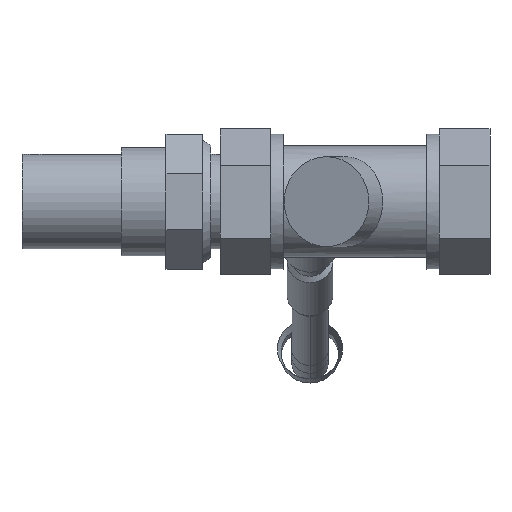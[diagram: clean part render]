
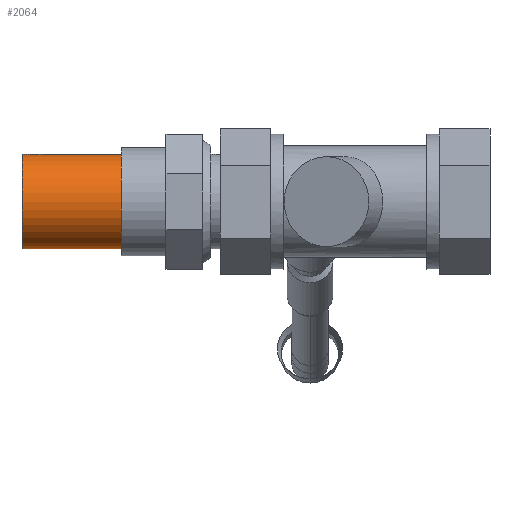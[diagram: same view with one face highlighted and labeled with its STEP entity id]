
A CAD part, front view. The second image highlights one B-rep face of the part: STEP entity #2064.
In plain terms, the highlighted cylindrical face has radius 13.335 mm (diameter 26.67 mm), a full revolution.
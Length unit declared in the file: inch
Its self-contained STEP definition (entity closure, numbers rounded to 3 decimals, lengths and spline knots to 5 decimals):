
#176=CYLINDRICAL_SURFACE('',#2305,0.525);
#275=FACE_OUTER_BOUND('',#396,.T.);
#396=EDGE_LOOP('',(#1761,#1762,#1763,#1764,#1765,#1766));
#514=CIRCLE('',#2297,0.525);
#515=CIRCLE('',#2298,0.525);
#520=CIRCLE('',#2306,0.525);
#521=CIRCLE('',#2307,0.525);
#647=LINE('',#3668,#790);
#790=VECTOR('',#2875,0.525);
#968=VERTEX_POINT('',#3649);
#969=VERTEX_POINT('',#3650);
#974=VERTEX_POINT('',#3665);
#975=VERTEX_POINT('',#3666);
#1236=EDGE_CURVE('',#968,#969,#514,.T.);
#1237=EDGE_CURVE('',#969,#968,#515,.T.);
#1243=EDGE_CURVE('',#974,#975,#520,.T.);
#1244=EDGE_CURVE('',#975,#969,#647,.T.);
#1245=EDGE_CURVE('',#975,#974,#521,.T.);
#1761=ORIENTED_EDGE('',*,*,#1243,.T.);
#1762=ORIENTED_EDGE('',*,*,#1244,.T.);
#1763=ORIENTED_EDGE('',*,*,#1237,.T.);
#1764=ORIENTED_EDGE('',*,*,#1236,.T.);
#1765=ORIENTED_EDGE('',*,*,#1244,.F.);
#1766=ORIENTED_EDGE('',*,*,#1245,.T.);
#2064=ADVANCED_FACE('',(#275),#176,.T.);
#2297=AXIS2_PLACEMENT_3D('',#3651,#2854,#2855);
#2298=AXIS2_PLACEMENT_3D('',#3652,#2856,#2857);
#2305=AXIS2_PLACEMENT_3D('',#3664,#2871,#2872);
#2306=AXIS2_PLACEMENT_3D('',#3667,#2873,#2874);
#2307=AXIS2_PLACEMENT_3D('',#3669,#2876,#2877);
#2854=DIRECTION('center_axis',(1.,0.,0.));
#2855=DIRECTION('ref_axis',(0.,0.,-1.));
#2856=DIRECTION('center_axis',(1.,0.,0.));
#2857=DIRECTION('ref_axis',(0.,0.,-1.));
#2871=DIRECTION('center_axis',(1.,0.,0.));
#2872=DIRECTION('ref_axis',(0.,1.,0.));
#2873=DIRECTION('center_axis',(-1.,0.,0.));
#2874=DIRECTION('ref_axis',(0.,1.,0.));
#2875=DIRECTION('',(-1.,0.,0.));
#2876=DIRECTION('center_axis',(-1.,0.,0.));
#2877=DIRECTION('ref_axis',(0.,1.,0.));
#3649=CARTESIAN_POINT('',(-3.7,0.525,0.));
#3650=CARTESIAN_POINT('',(-3.7,-0.525,0.));
#3651=CARTESIAN_POINT('Origin',(-3.7,0.,0.));
#3652=CARTESIAN_POINT('Origin',(-3.7,0.,0.));
#3664=CARTESIAN_POINT('Origin',(-2.31875,0.,0.));
#3665=CARTESIAN_POINT('',(-2.6,0.525,0.));
#3666=CARTESIAN_POINT('',(-2.6,-0.525,0.));
#3667=CARTESIAN_POINT('Origin',(-2.6,0.,0.));
#3668=CARTESIAN_POINT('',(-2.31875,-0.525,0.));
#3669=CARTESIAN_POINT('Origin',(-2.6,0.,0.));
